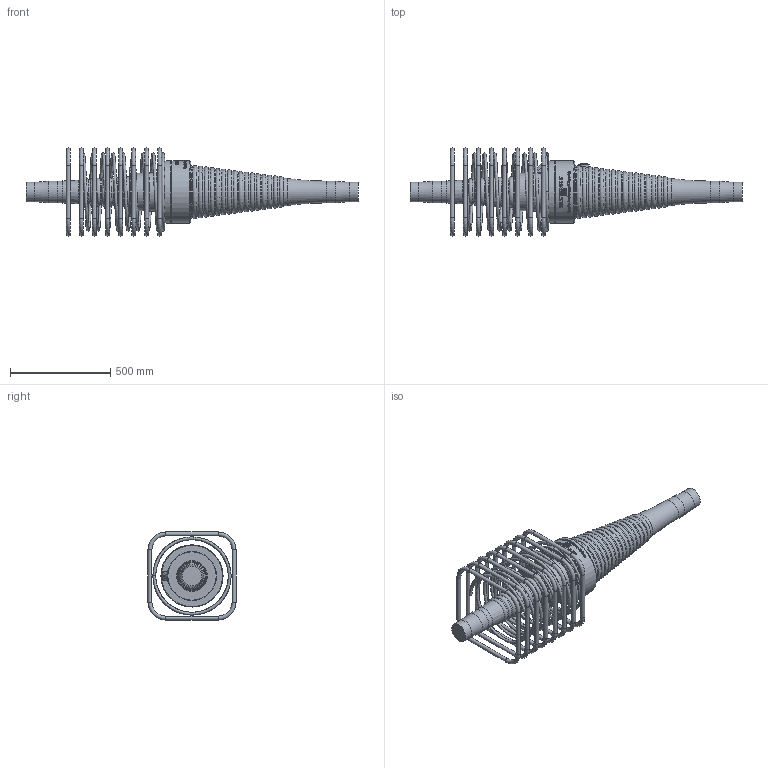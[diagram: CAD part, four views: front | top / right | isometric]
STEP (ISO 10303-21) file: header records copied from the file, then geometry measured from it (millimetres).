
FILE_DESCRIPTION(/* description */ (''),/* implementation_level */ '2;1');
FILE_NAME(/* name */ 'BBR VT CONA CMI BT 2206_Coupler K Assembly_CS-34,28.stp',/* time_stamp */ '2025-05-14T13:35:09+02:00',/* author */ ('tk'),/* organization */ (''),/* preprocessor_version */ 'ST-DEVELOPER v20',/* originating_system */ 'Autodesk Inventor 2024',/* authorisation */ '');
FILE_SCHEMA (('AUTOMOTIVE_DESIGN { 1 0 10303 214 3 1 1 }'));
Products named in the file (1): BBR VT CONA CMI BT 2206_Coupler K Assembly_CS-34,28
Bounding box: 1658.08 x 440 x 440 mm (x, y, z)
Volume: 46623462.3 mm3; surface area: 2310964.3 mm2
Topology: 10 solids, 10 shells, 964 faces, 2586 edges, 1686 vertices
Faces by surface type: bspline 425, plane 261, torus 129, cylinder 117, cone 30, sphere 2
Full cylindrical faces by diameter (mm): 20 x32, 33 x1, 56 x1, 99 x2, 109 x2, 187 x1, 243.942 x1, 305 x1, 306 x1, 310 x2
Entity records: 45304 total; most frequent: CARTESIAN_POINT 23041, ORIENTED_EDGE 5152, DIRECTION 3578, EDGE_CURVE 2576, VERTEX_POINT 1686, AXIS2_PLACEMENT_3D 1313, EDGE_LOOP 1036, FACE_OUTER_BOUND 964
